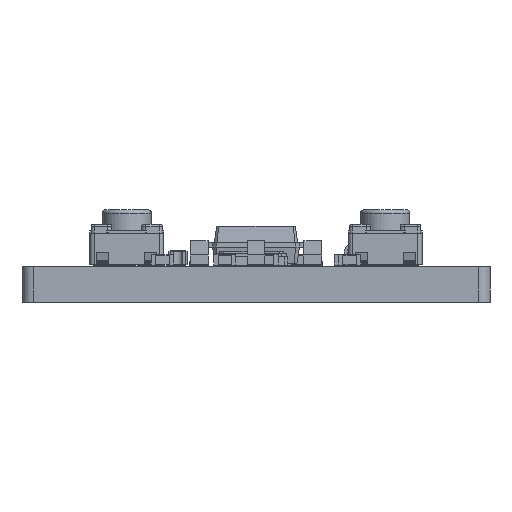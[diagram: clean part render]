
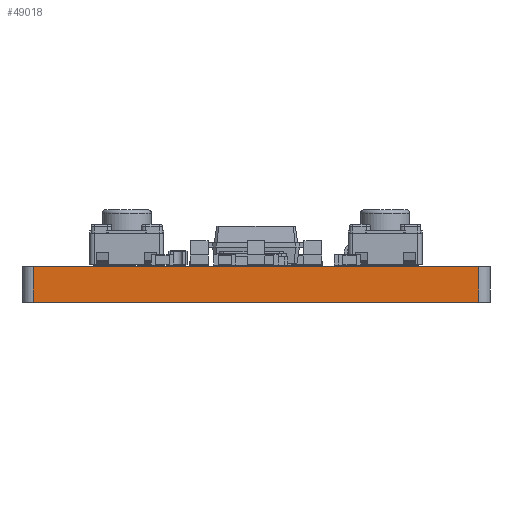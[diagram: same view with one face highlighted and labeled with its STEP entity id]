
A CAD part, front view. The second image highlights one B-rep face of the part: STEP entity #49018.
In plain terms, the highlighted planar face has unit normal (0, -1, 0).
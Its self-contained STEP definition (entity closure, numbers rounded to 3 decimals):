
#42433 = CYLINDRICAL_SURFACE('',#42434,0.5);
#42434 = AXIS2_PLACEMENT_3D('',#42435,#42436,#42437);
#42435 = CARTESIAN_POINT('',(200.5,-149.5,0.));
#42436 = DIRECTION('',(-0.,-0.,-1.));
#42437 = DIRECTION('',(1.,0.,-0.));
#42461 = PLANE('',#42462);
#42462 = AXIS2_PLACEMENT_3D('',#42463,#42464,#42465);
#42463 = CARTESIAN_POINT('',(210.5,-124.5,1.6));
#42464 = DIRECTION('',(-0.,-0.,-1.));
#42465 = DIRECTION('',(-1.,0.,0.));
#42515 = PLANE('',#42516);
#42516 = AXIS2_PLACEMENT_3D('',#42517,#42518,#42519);
#42517 = CARTESIAN_POINT('',(210.5,-124.5,0.));
#42518 = DIRECTION('',(-0.,-0.,-1.));
#42519 = DIRECTION('',(-1.,0.,0.));
#42532 = VERTEX_POINT('',#42533);
#42533 = CARTESIAN_POINT('',(200.5,-150.,1.6));
#42559 = EDGE_CURVE('',#42560,#42532,#42562,.T.);
#42560 = VERTEX_POINT('',#42561);
#42561 = CARTESIAN_POINT('',(200.5,-150.,0.));
#42562 = SURFACE_CURVE('',#42563,(#42567,#42574),.PCURVE_S1.);
#42563 = LINE('',#42564,#42565);
#42564 = CARTESIAN_POINT('',(200.5,-150.,0.));
#42565 = VECTOR('',#42566,1.);
#42566 = DIRECTION('',(0.,0.,1.));
#42567 = PCURVE('',#42433,#42568);
#42568 = DEFINITIONAL_REPRESENTATION('',(#42569),#42573);
#42569 = LINE('',#42570,#42571);
#42570 = CARTESIAN_POINT('',(-4.712,0.));
#42571 = VECTOR('',#42572,1.);
#42572 = DIRECTION('',(-0.,-1.));
#42573 = ( GEOMETRIC_REPRESENTATION_CONTEXT(2) 
PARAMETRIC_REPRESENTATION_CONTEXT() REPRESENTATION_CONTEXT('2D SPACE',''
  ) );
#42574 = PCURVE('',#42575,#42580);
#42575 = PLANE('',#42576);
#42576 = AXIS2_PLACEMENT_3D('',#42577,#42578,#42579);
#42577 = CARTESIAN_POINT('',(220.5,-150.,0.));
#42578 = DIRECTION('',(0.,-1.,0.));
#42579 = DIRECTION('',(-1.,0.,0.));
#42580 = DEFINITIONAL_REPRESENTATION('',(#42581),#42585);
#42581 = LINE('',#42582,#42583);
#42582 = CARTESIAN_POINT('',(20.,0.));
#42583 = VECTOR('',#42584,1.);
#42584 = DIRECTION('',(0.,-1.));
#42585 = ( GEOMETRIC_REPRESENTATION_CONTEXT(2) 
PARAMETRIC_REPRESENTATION_CONTEXT() REPRESENTATION_CONTEXT('2D SPACE',''
  ) );
#42789 = VERTEX_POINT('',#42790);
#42790 = CARTESIAN_POINT('',(220.5,-150.,0.));
#42809 = CYLINDRICAL_SURFACE('',#42810,0.5);
#42810 = AXIS2_PLACEMENT_3D('',#42811,#42812,#42813);
#42811 = CARTESIAN_POINT('',(220.5,-149.5,0.));
#42812 = DIRECTION('',(-0.,-0.,-1.));
#42813 = DIRECTION('',(1.,0.,-0.));
#42821 = EDGE_CURVE('',#42789,#42560,#42822,.T.);
#42822 = SURFACE_CURVE('',#42823,(#42827,#42834),.PCURVE_S1.);
#42823 = LINE('',#42824,#42825);
#42824 = CARTESIAN_POINT('',(220.5,-150.,0.));
#42825 = VECTOR('',#42826,1.);
#42826 = DIRECTION('',(-1.,0.,0.));
#42827 = PCURVE('',#42515,#42828);
#42828 = DEFINITIONAL_REPRESENTATION('',(#42829),#42833);
#42829 = LINE('',#42830,#42831);
#42830 = CARTESIAN_POINT('',(-10.,-25.5));
#42831 = VECTOR('',#42832,1.);
#42832 = DIRECTION('',(1.,0.));
#42833 = ( GEOMETRIC_REPRESENTATION_CONTEXT(2) 
PARAMETRIC_REPRESENTATION_CONTEXT() REPRESENTATION_CONTEXT('2D SPACE',''
  ) );
#42834 = PCURVE('',#42575,#42835);
#42835 = DEFINITIONAL_REPRESENTATION('',(#42836),#42840);
#42836 = LINE('',#42837,#42838);
#42837 = CARTESIAN_POINT('',(0.,-0.));
#42838 = VECTOR('',#42839,1.);
#42839 = DIRECTION('',(1.,0.));
#42840 = ( GEOMETRIC_REPRESENTATION_CONTEXT(2) 
PARAMETRIC_REPRESENTATION_CONTEXT() REPRESENTATION_CONTEXT('2D SPACE',''
  ) );
#46184 = VERTEX_POINT('',#46185);
#46185 = CARTESIAN_POINT('',(220.5,-150.,1.6));
#46211 = EDGE_CURVE('',#46184,#42532,#46212,.T.);
#46212 = SURFACE_CURVE('',#46213,(#46217,#46224),.PCURVE_S1.);
#46213 = LINE('',#46214,#46215);
#46214 = CARTESIAN_POINT('',(220.5,-150.,1.6));
#46215 = VECTOR('',#46216,1.);
#46216 = DIRECTION('',(-1.,0.,0.));
#46217 = PCURVE('',#42461,#46218);
#46218 = DEFINITIONAL_REPRESENTATION('',(#46219),#46223);
#46219 = LINE('',#46220,#46221);
#46220 = CARTESIAN_POINT('',(-10.,-25.5));
#46221 = VECTOR('',#46222,1.);
#46222 = DIRECTION('',(1.,0.));
#46223 = ( GEOMETRIC_REPRESENTATION_CONTEXT(2) 
PARAMETRIC_REPRESENTATION_CONTEXT() REPRESENTATION_CONTEXT('2D SPACE',''
  ) );
#46224 = PCURVE('',#42575,#46225);
#46225 = DEFINITIONAL_REPRESENTATION('',(#46226),#46230);
#46226 = LINE('',#46227,#46228);
#46227 = CARTESIAN_POINT('',(0.,-1.6));
#46228 = VECTOR('',#46229,1.);
#46229 = DIRECTION('',(1.,0.));
#46230 = ( GEOMETRIC_REPRESENTATION_CONTEXT(2) 
PARAMETRIC_REPRESENTATION_CONTEXT() REPRESENTATION_CONTEXT('2D SPACE',''
  ) );
#49018 = ADVANCED_FACE('',(#49019),#42575,.T.);
#49019 = FACE_BOUND('',#49020,.T.);
#49020 = EDGE_LOOP('',(#49021,#49042,#49043,#49044));
#49021 = ORIENTED_EDGE('',*,*,#49022,.T.);
#49022 = EDGE_CURVE('',#42789,#46184,#49023,.T.);
#49023 = SURFACE_CURVE('',#49024,(#49028,#49035),.PCURVE_S1.);
#49024 = LINE('',#49025,#49026);
#49025 = CARTESIAN_POINT('',(220.5,-150.,0.));
#49026 = VECTOR('',#49027,1.);
#49027 = DIRECTION('',(0.,0.,1.));
#49028 = PCURVE('',#42575,#49029);
#49029 = DEFINITIONAL_REPRESENTATION('',(#49030),#49034);
#49030 = LINE('',#49031,#49032);
#49031 = CARTESIAN_POINT('',(0.,-0.));
#49032 = VECTOR('',#49033,1.);
#49033 = DIRECTION('',(0.,-1.));
#49034 = ( GEOMETRIC_REPRESENTATION_CONTEXT(2) 
PARAMETRIC_REPRESENTATION_CONTEXT() REPRESENTATION_CONTEXT('2D SPACE',''
  ) );
#49035 = PCURVE('',#42809,#49036);
#49036 = DEFINITIONAL_REPRESENTATION('',(#49037),#49041);
#49037 = LINE('',#49038,#49039);
#49038 = CARTESIAN_POINT('',(-4.712,0.));
#49039 = VECTOR('',#49040,1.);
#49040 = DIRECTION('',(-0.,-1.));
#49041 = ( GEOMETRIC_REPRESENTATION_CONTEXT(2) 
PARAMETRIC_REPRESENTATION_CONTEXT() REPRESENTATION_CONTEXT('2D SPACE',''
  ) );
#49042 = ORIENTED_EDGE('',*,*,#46211,.T.);
#49043 = ORIENTED_EDGE('',*,*,#42559,.F.);
#49044 = ORIENTED_EDGE('',*,*,#42821,.F.);
